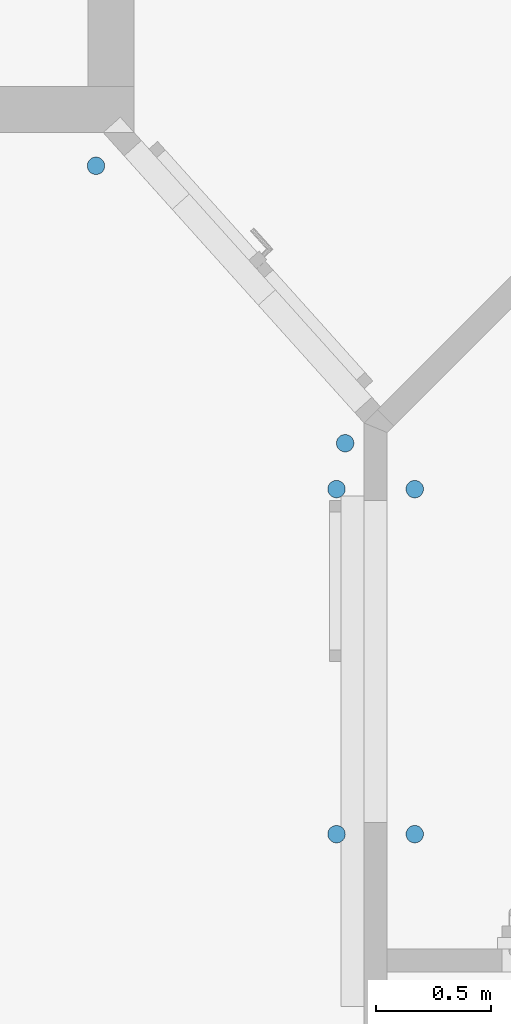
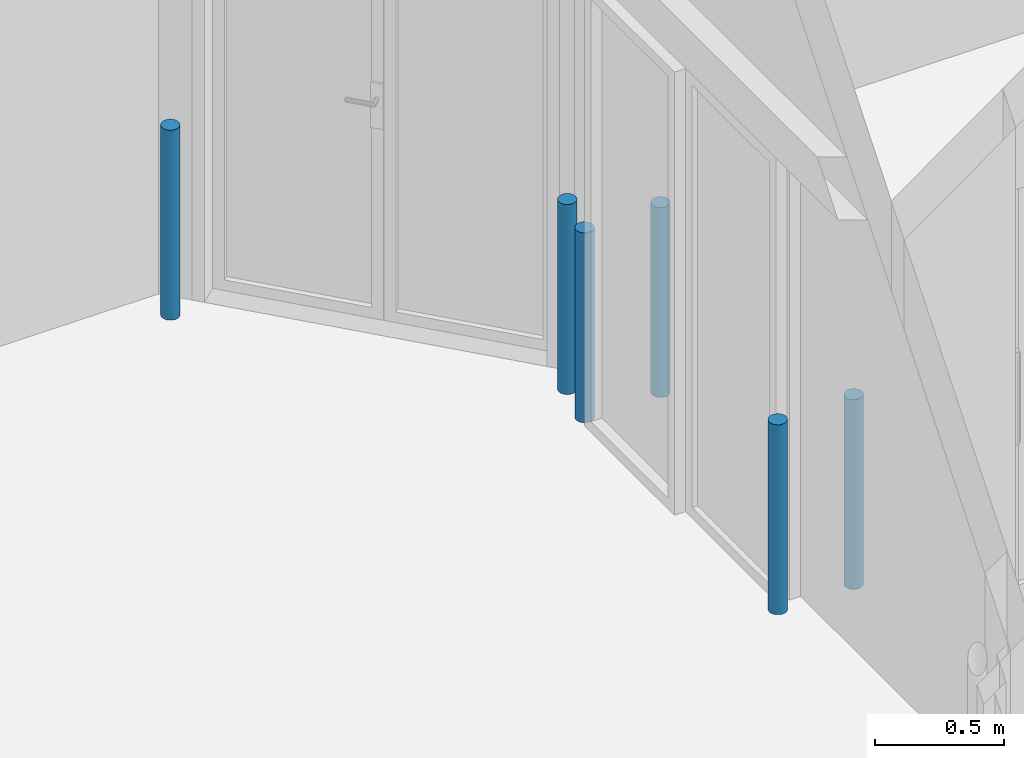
# One storey, part 6 of 140: 6 columns.
"""IFC4 building model written with IfcOpenShell, lengths in metres."""

from ifc_helpers import new_model, entity, si_unit, converted_unit, derived_unit, frame, frame_2d, origin, origin_with_axes, place, context, subcontext, project, spatial, circle, extrude, material, element, save


model = new_model("IFC4")

# Units and contexts
model_context = context("Model", 3, precision=1e-05, world=origin())
body_context = subcontext(model_context, "Body", "Model", "MODEL_VIEW")
ifc_project = project(units=[si_unit("LENGTHUNIT", "METRE"), si_unit("AREAUNIT", "SQUARE_METRE"), si_unit("VOLUMEUNIT", "CUBIC_METRE"), si_unit("MASSUNIT", "GRAM", prefix="KILO"), converted_unit("PLANEANGLEUNIT", "DEGREE", entity("IfcPlaneAngleMeasure", 0.0174532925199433), si_unit("PLANEANGLEUNIT", "RADIAN"), dimensions=[0, 0, 0, 0, 0, 0, 0]), derived_unit("THERMALTRANSMITTANCEUNIT", [(si_unit("POWERUNIT", "WATT"), 1), (si_unit("THERMODYNAMICTEMPERATUREUNIT", "KELVIN"), -1), (si_unit("LENGTHUNIT", "METRE"), -2)]), derived_unit("VOLUMETRICFLOWRATEUNIT", [(si_unit("LENGTHUNIT", "METRE"), 3), (converted_unit("TIMEUNIT", "hour", entity("IfcTimeMeasure", 3600.0), si_unit("TIMEUNIT", "SECOND"), dimensions=[0, 0, 1, 0, 0, 0, 0]), -1), (si_unit("LENGTHUNIT", "METRE"), -1)])], contexts=[model_context])

# Site, building, storey
site_placement = place(None, origin())
site = spatial("IfcSite", under=ifc_project, at=site_placement, Name="3. ASŘ", CompositionType="ELEMENT")
building_placement = place(site_placement, origin())
building = spatial("IfcBuilding", under=site, at=building_placement, Name="Pavilon C", CompositionType="ELEMENT")
storey_placement = place(building_placement, origin())
storey = spatial("IfcBuildingStorey", under=building, at=storey_placement, Name="Půdorys 1.NP", CompositionType="ELEMENT", Elevation=0.0)

# Columns
ifc_material_1 = material(Name="I.OS4")
column_1_placement = place(storey_placement, frame((59.642, 24.562, 0.0)))
element("IfcColumn", 1, at=column_1_placement, inside=storey, material=ifc_material_1, Name="OCHRANNÝ SLOUPEK", PredefinedType="COLUMN", context=body_context, shape_type="SweptSolid", body=[
    extrude(circle(Radius=0.0380000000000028, at=frame_2d((0.0380000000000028, 0.0380000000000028), x_axis=(1.0, 0.0))), origin_with_axes(), (0.0, 0.0, 1.0), 0.9),
])
ifc_material_2 = material(Name="I.OS4")
column_2_placement = place(storey_placement, frame((59.982, 24.562, 0.0)))
element("IfcColumn", 2, at=column_2_placement, inside=storey, material=ifc_material_2, Name="OCHRANNÝ SLOUPEK", PredefinedType="COLUMN", context=body_context, shape_type="SweptSolid", body=[
    extrude(circle(Radius=0.0380000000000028, at=frame_2d((0.0380000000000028, 0.0380000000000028), x_axis=(1.0, 0.0))), origin_with_axes(), (0.0, 0.0, 1.0), 0.9),
])
ifc_material_3 = material(Name="I.OS4")
column_3_placement = place(storey_placement, frame((59.642, 26.062, 0.0)))
element("IfcColumn", 3, at=column_3_placement, inside=storey, material=ifc_material_3, Name="OCHRANNÝ SLOUPEK", PredefinedType="COLUMN", context=body_context, shape_type="SweptSolid", body=[
    extrude(circle(Radius=0.0380000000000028, at=frame_2d((0.0380000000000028, 0.0380000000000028), x_axis=(1.0, 0.0))), origin_with_axes(), (0.0, 0.0, 1.0), 0.9),
])
ifc_material_4 = material(Name="I.OS4")
column_4_placement = place(storey_placement, frame((59.982, 26.062, 0.0)))
element("IfcColumn", 4, at=column_4_placement, inside=storey, material=ifc_material_4, Name="OCHRANNÝ SLOUPEK", PredefinedType="COLUMN", context=body_context, shape_type="SweptSolid", body=[
    extrude(circle(Radius=0.0380000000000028, at=frame_2d((0.0380000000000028, 0.0380000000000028), x_axis=(1.0, 0.0))), origin_with_axes(), (0.0, 0.0, 1.0), 0.9),
])
ifc_material_5 = material(Name="I.OS4")
column_5_placement = place(storey_placement, frame((59.6795109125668, 26.261425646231, 0.0)))
element("IfcColumn", 5, at=column_5_placement, inside=storey, material=ifc_material_5, Name="OCHRANNÝ SLOUPEK", PredefinedType="COLUMN", context=body_context, shape_type="SweptSolid", body=[
    extrude(circle(Radius=0.0380000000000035, at=frame_2d((0.0380000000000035, 0.0380000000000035), x_axis=(1.0, 0.0))), origin_with_axes(), (0.0, 0.0, 1.0), 0.9),
])
ifc_material_6 = material(Name="I.OS4")
column_6_placement = place(storey_placement, frame((58.5964276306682, 27.467249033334, 0.0)))
element("IfcColumn", 6, at=column_6_placement, inside=storey, material=ifc_material_6, Name="OCHRANNÝ SLOUPEK", PredefinedType="COLUMN", context=body_context, shape_type="SweptSolid", body=[
    extrude(circle(Radius=0.0379999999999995, at=frame_2d((0.0379999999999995, 0.0379999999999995), x_axis=(1.0, 0.0))), origin_with_axes(), (0.0, 0.0, 1.0), 0.9),
])

save(model, "model.ifc")
